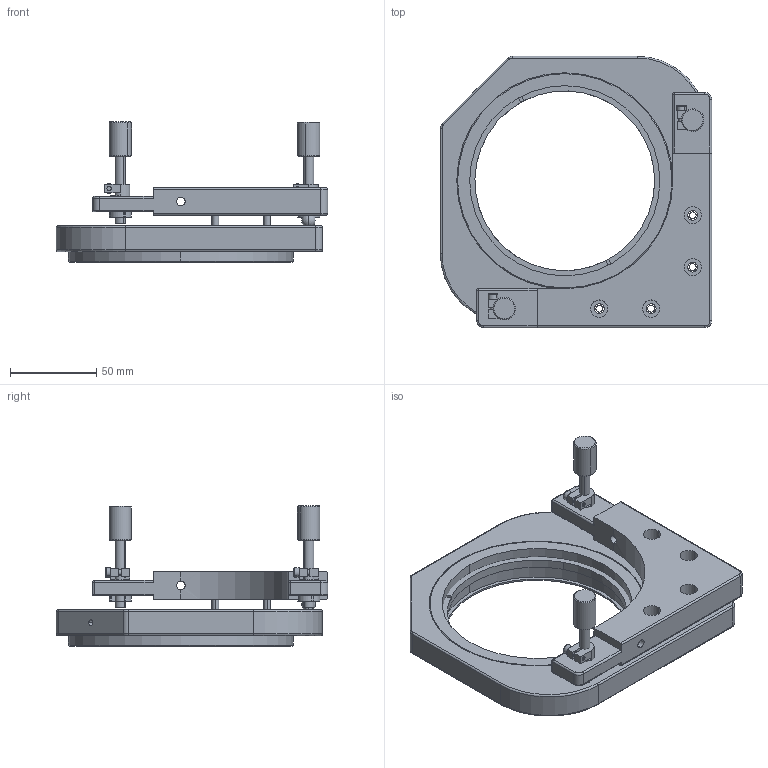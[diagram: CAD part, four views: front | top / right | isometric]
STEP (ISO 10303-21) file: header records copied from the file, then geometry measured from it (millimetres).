
FILE_DESCRIPTION (( 'STEP AP203' ), '1' );
FILE_NAME ('7MM05110謗峎覃淕噩殤.STEP', '2019-10-17T08:56:25', ( '' ), ( '' ), 'SwSTEP 2.0', 'SolidWorks 2014', '' );
FILE_SCHEMA (( 'CONFIG_CONTROL_DESIGN' ));
Length unit declared in the file: millimetre
Products named in the file (1): 7MM05110謗峎覃淕噩殤
Bounding box: 157 x 157 x 81 mm (x, y, z)
Surface area: 84831 mm2 (no closed solid volume)
Topology: 0 solids, 32 shells, 270 faces, 776 edges, 524 vertices
Faces by surface type: cylinder 130, plane 98, torus 20, cone 16, sphere 6
Entity records: 9002 total; most frequent: CARTESIAN_POINT 1685, DIRECTION 1669, ORIENTED_EDGE 1273, EDGE_CURVE 763, AXIS2_PLACEMENT_3D 643, VERTEX_POINT 521, VECTOR 383, LINE 383
